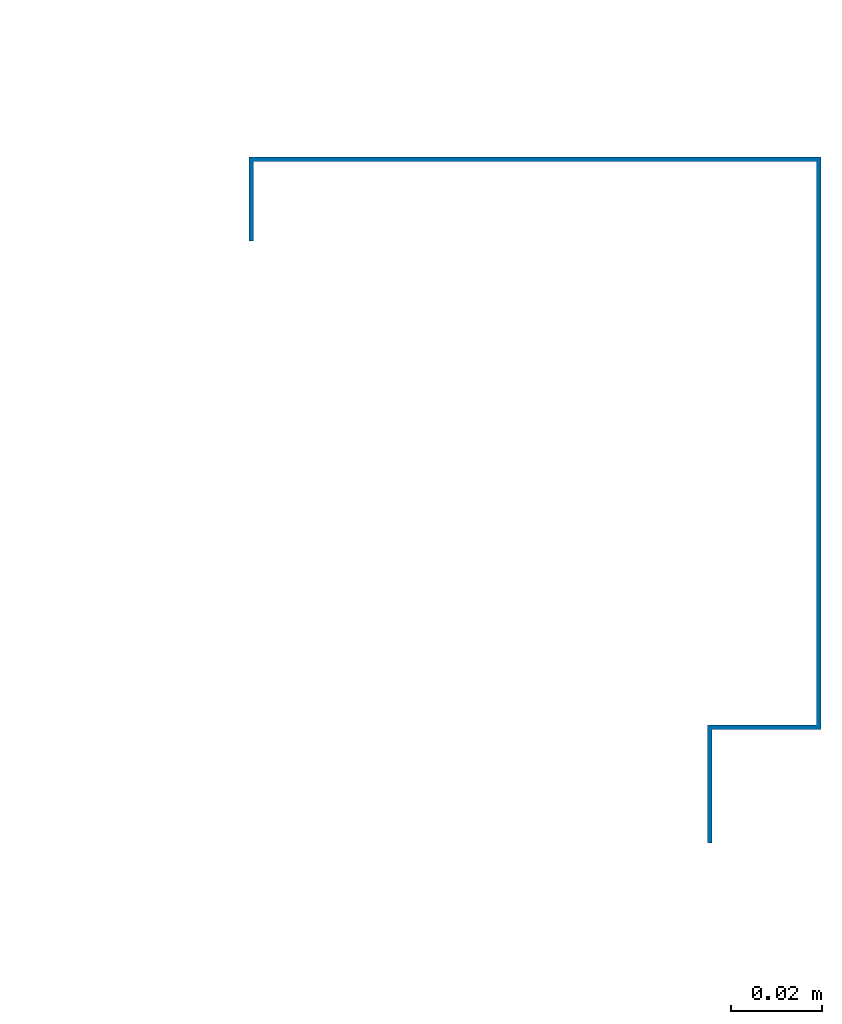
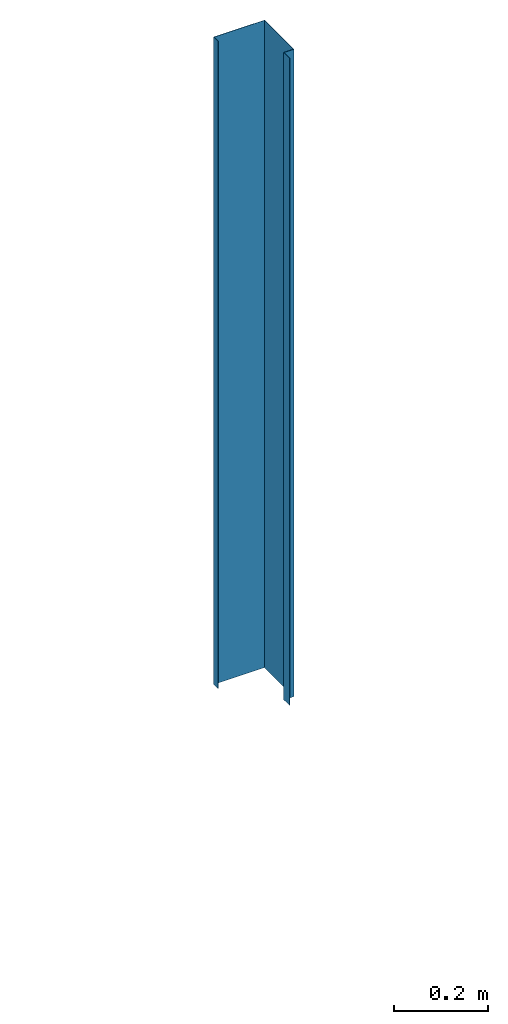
# One storey, part 30 of 321: 1 column.
"""IFC2X3 building model written with IfcOpenShell, lengths in millimetres."""

import ifcopenshell
import ifcopenshell.guid

model = None  # the IFC model being written
_history = None  # IfcOwnerHistory: only IFC2X3 demands one
_inside = {}  # id of a spatial element -> (the spatial element, [elements in it])
_under = {}  # id of a project, library or spatial element -> (it, [spatial elements below it])
_declared = {}  # id of a project -> (the project, [libraries it declares])
_typed = {}  # id of a type object -> (the type object, [elements of that type])
_made_of = {}  # id of a material, layer set ... -> (it, [elements and type objects made of it])


def new_model(schema):
    """Start an empty IFC model of exactly this schema.

    Asked for "IFC4X3", IfcOpenShell would pick the latest addendum, in which some entities
    have other attributes; the version numbers below select the first issue.
    IFC2X3 requires an IfcOwnerHistory on every rooted entity: one is made here for all.
    """
    global model, _history
    if schema == "IFC4X3":
        model = ifcopenshell.file(schema_version=(4, 3, 0, 0))
    else:
        model = ifcopenshell.file(schema=schema)
    _inside.clear()
    _under.clear()
    _declared.clear()
    _typed.clear()
    _made_of.clear()
    _history = None
    if model.schema == "IFC2X3":
        org = make("IfcOrganization", Name="unknown")
        user = make(
            "IfcPersonAndOrganization",
            ThePerson=make("IfcPerson", FamilyName="unknown"),
            TheOrganization=org,
        )
        app = make(
            "IfcApplication",
            ApplicationDeveloper=org,
            Version="unknown",
            ApplicationFullName="unknown",
            ApplicationIdentifier="unknown",
        )
        _history = make(
            "IfcOwnerHistory",
            OwningUser=user,
            OwningApplication=app,
            ChangeAction="ADDED",
            CreationDate=0,
        )
    return model


def make(cls, **values):
    """One entity of the class cls with the attributes given. An attribute that is None is left unset."""
    return model.create_entity(
        cls, **{name: value for name, value in values.items() if value is not None}
    )


def entity(cls, *values):
    """Any entity or typed value of the class cls, its attributes in the order of the schema. None: left unset."""
    e = model.create_entity(cls)
    for i, value in enumerate(values):
        if value is not None:
            e[i] = value
    return e


def rooted(cls, **values):
    """An entity with a GlobalId (a new one), such as an element, a storey or a relation."""
    return make(cls, GlobalId=ifcopenshell.guid.new(), OwnerHistory=_history, **values)


def si_unit(unit_type, name, prefix=None):
    """IfcSIUnit, for example si_unit("LENGTHUNIT", "METRE", prefix="MILLI")."""
    return make("IfcSIUnit", UnitType=unit_type, Prefix=prefix, Name=name)


def converted_unit(unit_type, name, factor, base, dimensions=None, offset=None):
    """IfcConversionBasedUnit, such as the inch: factor (a typed value) times the base unit."""
    return make(
        "IfcConversionBasedUnit"
        if offset is None
        else "IfcConversionBasedUnitWithOffset",
        ConversionOffset=offset,
        Dimensions=None
        if dimensions is None
        else entity("IfcDimensionalExponents", *dimensions),
        UnitType=unit_type,
        Name=name,
        ConversionFactor=make(
            "IfcMeasureWithUnit", ValueComponent=factor, UnitComponent=base
        ),
    )


def derived_unit(unit_type, elements):
    """IfcDerivedUnit: a product of units, each with its exponent."""
    return make(
        "IfcDerivedUnit",
        Elements=[
            make("IfcDerivedUnitElement", Unit=unit, Exponent=power)
            for unit, power in elements
        ],
        UnitType=unit_type,
    )


def money_unit(currency):
    """IfcMonetaryUnit."""
    return make("IfcMonetaryUnit", Currency=currency)


def assignment(units):
    """IfcUnitAssignment: the units of a project."""
    return None if units is None else make("IfcUnitAssignment", Units=units)


def point(xyz):
    """IfcCartesianPoint."""
    return None if xyz is None else make("IfcCartesianPoint", Coordinates=xyz)


def direction(xyz):
    """IfcDirection."""
    return None if xyz is None else make("IfcDirection", DirectionRatios=xyz)


def frame(location, z_axis=None, x_axis=None):
    """IfcAxis2Placement3D, a coordinate frame: its origin and axes. An axis left out is left unset."""
    return make(
        "IfcAxis2Placement3D",
        Location=point(location),
        Axis=direction(z_axis),
        RefDirection=direction(x_axis),
    )


def origin_with_axes():
    """The frame at (0, 0, 0) with the z axis (0, 0, 1) and the x axis (1, 0, 0) written out."""
    return frame((0.0, 0.0, 0.0), z_axis=(0.0, 0.0, 1.0), x_axis=(1.0, 0.0, 0.0))


def place(relative_to, where):
    """IfcLocalPlacement: puts the frame where relative to a parent placement (None: the world)."""
    return make(
        "IfcLocalPlacement", PlacementRelTo=relative_to, RelativePlacement=where
    )


def context(
    kind, dimensions, precision=None, world=None, true_north=None, identifier=None
):
    """IfcGeometricRepresentationContext, for example the 3D "Model" context."""
    return make(
        "IfcGeometricRepresentationContext",
        ContextIdentifier=identifier,
        ContextType=kind,
        CoordinateSpaceDimension=dimensions,
        Precision=precision,
        WorldCoordinateSystem=world,
        TrueNorth=true_north,
    )


def subcontext(parent, identifier, kind, view, scale=None):
    """IfcGeometricRepresentationSubContext, for example "Body" below "Model"."""
    return make(
        "IfcGeometricRepresentationSubContext",
        ContextIdentifier=identifier,
        ContextType=kind,
        ParentContext=parent,
        TargetScale=scale,
        TargetView=view,
    )


def project(units=None, contexts=None):
    """IfcProject with its units and contexts."""
    return rooted(
        "IfcProject",
        Name="project",
        RepresentationContexts=contexts,
        UnitsInContext=assignment(units),
    )


def spatial(cls, under=None, at=None, **own):
    """A site, building, storey or space (cls), placed at a placement, below another one or the project."""
    s = rooted(cls, ObjectPlacement=at, **own)
    if under is not None:
        _under.setdefault(under.id(), (under, []))[1].append(s)
    return s


def faces_of(points, faces, orient=None, outer=None):
    """IfcFace entities. A face is a list of loops; a loop is a list of indices into points, from 0.

    orient and outer hold one flag for each loop. By default every Orientation is true, the
    first loop of a face is its IfcFaceOuterBound and the others are IfcFaceBound.
    """
    made = []
    for i, loops in enumerate(faces):
        bounds = []
        for j, loop in enumerate(loops):
            is_outer = j == 0 if outer is None else outer[i][j]
            bounds.append(
                make(
                    "IfcFaceOuterBound" if is_outer else "IfcFaceBound",
                    Bound=make("IfcPolyLoop", Polygon=[points[k] for k in loop]),
                    Orientation=True if orient is None else orient[i][j],
                )
            )
        made.append(make("IfcFace", Bounds=bounds))
    return made


def faceted_brep(points, faces, orient=None, outer=None, voids=None):
    """IfcFacetedBrep: a solid bounded by flat faces; with voids (closed shells), ...WithVoids."""
    shared = [point(p) for p in points]
    hull = make("IfcClosedShell", CfsFaces=faces_of(shared, faces, orient, outer))
    if voids is None:
        return make("IfcFacetedBrep", Outer=hull)
    return make(
        "IfcFacetedBrepWithVoids",
        Outer=hull,
        Voids=[
            make(cls, CfsFaces=faces_of(shared, fs, o, b)) for cls, fs, o, b in voids
        ],
    )


def shape(context_of_items, identifier, shape_type, items):
    """IfcShapeRepresentation: the items that make up one representation, for example the "Body"."""
    return make(
        "IfcShapeRepresentation",
        ContextOfItems=context_of_items,
        RepresentationIdentifier=identifier,
        RepresentationType=shape_type,
        Items=items,
    )


def material(Name=None, Category=None):
    """IfcMaterial."""
    return make("IfcMaterial", Name=Name, Category=Category)


def made_of(thing, what):
    """Note that an element or type object is made of a material, layer set ...; save() writes the relation."""
    if what is not None:
        _made_of.setdefault(what.id(), (what, []))[1].append(thing)
    return thing


def type_object(cls, material=None, **own):
    """A type object (cls), such as IfcWallType, which elements share."""
    return made_of(rooted(cls, **own), material)


def element(
    cls,
    number,
    at=None,
    inside=None,
    cuts=None,
    type_object=None,
    material=None,
    context=None,
    identifier="Body",
    shape_type=None,
    held_by="IfcProductDefinitionShape",
    body=None,
    shapes=None,
    **own,
):
    """One element of the class cls, such as IfcWall. Its Tag is "e" and its number.

    at: its placement. inside: the storey or other place that contains it. cuts: it is an
    opening in that element (IfcRelVoidsElement). A single representation is given by context,
    identifier, shape_type and body (its items); several are given by shapes. held_by: the class
    of the entity that holds the representations. save() writes the other relations.
    """
    e = rooted(cls, Tag="e%d" % number, ObjectPlacement=at, **own)
    if body is not None:
        shapes = [shape(context, identifier, shape_type, body)]
    if shapes is not None:
        e.Representation = make(held_by, Representations=shapes)
    if inside is not None:
        _inside.setdefault(inside.id(), (inside, []))[1].append(e)
    if cuts is not None:
        rooted(
            "IfcRelVoidsElement", RelatingBuildingElement=cuts, RelatedOpeningElement=e
        )
    if type_object is not None:
        _typed.setdefault(type_object.id(), (type_object, []))[1].append(e)
    return made_of(e, material)


def aggregate(whole, parts):
    """IfcRelAggregates: a whole, such as a stair, and the parts it consists of."""
    return rooted("IfcRelAggregates", RelatingObject=whole, RelatedObjects=parts)


def save(model, path):
    """Write the relations noted so far, then the file.

    IfcRelAggregates (storeys below a building ...), IfcRelContainedInSpatialStructure (elements
    in a storey), IfcRelDefinesByType, IfcRelAssociatesMaterial and IfcRelDeclares: one each for
    every whole, place, type object, material and project.
    """
    for whole, parts in _under.values():
        aggregate(whole, parts)
    for where, things in _inside.values():
        rooted(
            "IfcRelContainedInSpatialStructure",
            RelatedElements=things,
            RelatingStructure=where,
        )
    for kind, things in _typed.values():
        rooted("IfcRelDefinesByType", RelatedObjects=things, RelatingType=kind)
    for what, things in _made_of.values():
        rooted("IfcRelAssociatesMaterial", RelatedObjects=things, RelatingMaterial=what)
    for by, libraries in _declared.values():
        rooted("IfcRelDeclares", RelatingContext=by, RelatedDefinitions=libraries)
    model.write(path)


model = new_model("IFC2X3")

# Units and contexts
model_context = context("Model", 3, precision=0.01, world=origin_with_axes(), true_north=direction((0.0, 1.0)))
plan_context = context("Plan", 3, precision=0.01, world=origin_with_axes(), true_north=direction((0.0, 1.0)))
body_context = subcontext(model_context, "Body", "Model", "MODEL_VIEW")
ifc_project = project(units=[si_unit("LENGTHUNIT", "METRE", prefix="MILLI"), si_unit("AREAUNIT", "SQUARE_METRE"), si_unit("VOLUMEUNIT", "CUBIC_METRE"), converted_unit("PLANEANGLEUNIT", "DEGREE", entity("IfcPlaneAngleMeasure", 0.0174532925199), si_unit("PLANEANGLEUNIT", "RADIAN"), dimensions=[0, 0, 0, 0, 0, 0, 0]), money_unit("EUR"), converted_unit("TIMEUNIT", "Year", entity("IfcTimeMeasure", 31556926.0), si_unit("TIMEUNIT", "SECOND"), dimensions=[0, 0, 1, 0, 0, 0, 0]), si_unit("MASSUNIT", "GRAM", prefix="KILO"), si_unit("THERMODYNAMICTEMPERATUREUNIT", "DEGREE_CELSIUS"), si_unit("LUMINOUSINTENSITYUNIT", "LUMEN"), si_unit("ENERGYUNIT", "JOULE", prefix="MEGA"), derived_unit("THERMALCONDUCTANCEUNIT", [(si_unit("POWERUNIT", "WATT"), 1), (si_unit("LENGTHUNIT", "METRE"), -1), (si_unit("THERMODYNAMICTEMPERATUREUNIT", "KELVIN"), -1)]), derived_unit("SPECIFICHEATCAPACITYUNIT", [(si_unit("ENERGYUNIT", "JOULE"), 1), (si_unit("MASSUNIT", "GRAM", prefix="KILO"), -1), (si_unit("THERMODYNAMICTEMPERATUREUNIT", "KELVIN"), -1)]), derived_unit("MASSDENSITYUNIT", [(si_unit("MASSUNIT", "GRAM", prefix="KILO"), 1), (si_unit("VOLUMEUNIT", "CUBIC_METRE"), -1)])], contexts=[model_context, plan_context])

# Site, building, storey
site_placement = place(None, origin_with_axes())
site = spatial("IfcSite", under=ifc_project, at=site_placement, Name="Fortuinstraat Woensdrecht", CompositionType="ELEMENT")
building_placement = place(site_placement, origin_with_axes())
building = spatial("IfcBuilding", under=site, at=building_placement, Name="IKC Fortuna", CompositionType="ELEMENT")
storey_placement = place(building_placement, frame((0.0, 0.0, 4000.0), z_axis=(0.0, 0.0, 1.0), x_axis=(1.0, 0.0, 0.0)))
storey = spatial("IfcBuildingStorey", under=building, at=storey_placement, Name="01 eerste verdieping", CompositionType="ELEMENT", Elevation=4000.0)

# Column
ifc_material = material(Name="Metaal - Aluminium")
column_type = type_object("IfcColumnType", Name="41 Zetwerk SW hoek 151 x 151", PredefinedType="COLUMN")
column_placement = place(storey_placement, frame((59533.4270571, 35596.296676, 1289.99999237), z_axis=(0.0, 0.0, 1.0), x_axis=(0.0, 1.0, 0.0)))
element("IfcColumn", 1, at=column_placement, inside=storey, type_object=column_type, material=ifc_material, Name="28_Kolom_omtimmering kolom", ObjectType="COLUMN", context=body_context, shape_type="Brep", body=[
    faceted_brep([(25.0, -25.0, 1690.00000566), (25.0, 101.0, 1690.00000566), (6.54751961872, 101.0, 1690.00000566), (6.54900127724, 100.0, 1690.00000566), (24.0, 100.0, 1690.00000566), (24.0, -24.0, 1690.00000566), (-100.0, -24.0, 1690.00000566), (-100.0, 0.0, 1690.00000566), (-126.0, 0.0, 1690.00000566), (-126.0, -0.999999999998, 1690.00000566), (-101.0, -0.999999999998, 1690.00000566), (-101.0, -25.0, 1690.00000566), (25.0, 101.0, 0.0), (25.0, -25.0, 0.0), (6.54751961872, 101.0, 0.0), (6.54900127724, 100.0, 0.0), (24.0, 100.0, 0.0), (24.0, -24.0, 0.0), (-100.0, -24.0, 0.0), (-100.0, 0.0, 0.0), (-126.0, 0.0, 0.0), (-126.0, -0.999999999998, 0.0), (-101.0, -0.999999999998, 0.0), (-101.0, -25.0, 0.0)], [[[0, 1, 2, 3, 4, 5, 6, 7, 8, 9, 10, 11]], [[12, 1, 0, 13]], [[1, 12, 14, 2]], [[2, 14, 15, 3]], [[16, 4, 3, 15]], [[17, 5, 4, 16]], [[18, 6, 5, 17]], [[19, 7, 6, 18]], [[20, 8, 7, 19]], [[21, 9, 8, 20]], [[22, 10, 9, 21]], [[23, 11, 10, 22]], [[13, 0, 11, 23]], [[17, 16, 15, 14, 12, 13, 23, 22, 21, 20, 19, 18]]]),
])

save(model, "model.ifc")
